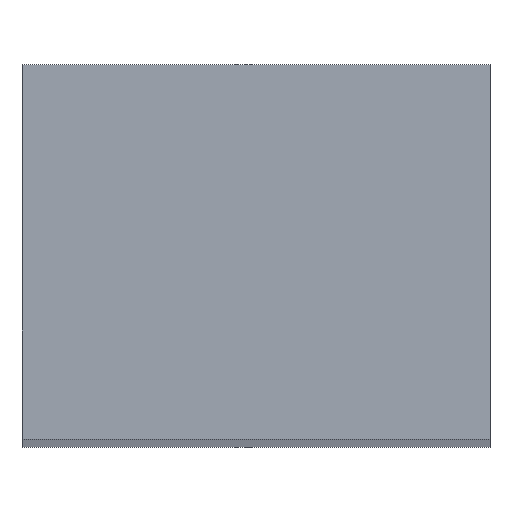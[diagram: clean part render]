
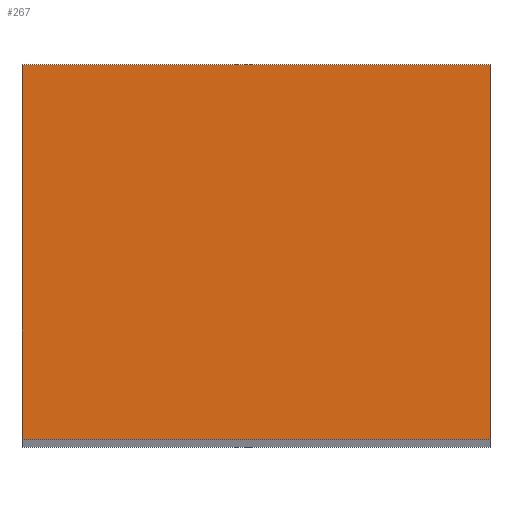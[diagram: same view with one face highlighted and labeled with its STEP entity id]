
A CAD part, top view. The second image highlights one B-rep face of the part: STEP entity #267.
In plain terms, the highlighted planar face has unit normal (0, 0, 1).
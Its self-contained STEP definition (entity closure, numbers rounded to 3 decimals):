
#2 = VECTOR ( 'NONE', #49, 1000. ) ;
#7 = LINE ( 'NONE', #93, #26 ) ;
#15 = EDGE_CURVE ( 'NONE', #284, #259, #392, .T. ) ;
#26 = VECTOR ( 'NONE', #333, 1000. ) ;
#35 = CARTESIAN_POINT ( 'NONE',  ( -7.5, 6., 150. ) ) ;
#44 = VERTEX_POINT ( 'NONE', #438 ) ;
#47 = ORIENTED_EDGE ( 'NONE', *, *, #277, .T. ) ;
#49 = DIRECTION ( 'NONE',  ( 0., -1., 0. ) ) ;
#53 = DIRECTION ( 'NONE',  ( 0., 1., 0. ) ) ;
#71 = DIRECTION ( 'NONE',  ( 1., 0., 0. ) ) ;
#74 = CARTESIAN_POINT ( 'NONE',  ( 7.5, -6., 150. ) ) ;
#86 = CARTESIAN_POINT ( 'NONE',  ( 7.5, 6., 150. ) ) ;
#93 = CARTESIAN_POINT ( 'NONE',  ( -7.5, -6., 150. ) ) ;
#100 = FACE_OUTER_BOUND ( 'NONE', #210, .T. ) ;
#102 = DIRECTION ( 'NONE',  ( 0., 0., 1. ) ) ;
#133 = VECTOR ( 'NONE', #143, 1000. ) ;
#138 = CARTESIAN_POINT ( 'NONE',  ( 7.5, 6., 150. ) ) ;
#141 = CARTESIAN_POINT ( 'NONE',  ( -7.5, 6., 150. ) ) ;
#143 = DIRECTION ( 'NONE',  ( -1., 0., 0. ) ) ;
#203 = LINE ( 'NONE', #35, #2 ) ;
#205 = PLANE ( 'NONE',  #352 ) ;
#208 = ORIENTED_EDGE ( 'NONE', *, *, #15, .T. ) ;
#210 = EDGE_LOOP ( 'NONE', ( #208, #47, #216, #317 ) ) ;
#216 = ORIENTED_EDGE ( 'NONE', *, *, #398, .T. ) ;
#226 = VECTOR ( 'NONE', #53, 1000. ) ;
#259 = VERTEX_POINT ( 'NONE', #138 ) ;
#267 = ADVANCED_FACE ( 'NONE', ( #100 ), #205, .T. ) ;
#275 = CARTESIAN_POINT ( 'NONE',  ( 0., 0., 150. ) ) ;
#277 = EDGE_CURVE ( 'NONE', #259, #349, #411, .T. ) ;
#284 = VERTEX_POINT ( 'NONE', #74 ) ;
#309 = EDGE_CURVE ( 'NONE', #44, #284, #7, .T. ) ;
#317 = ORIENTED_EDGE ( 'NONE', *, *, #309, .T. ) ;
#327 = CARTESIAN_POINT ( 'NONE',  ( -7.5, 6., 150. ) ) ;
#333 = DIRECTION ( 'NONE',  ( 1., 0., 0. ) ) ;
#349 = VERTEX_POINT ( 'NONE', #327 ) ;
#352 = AXIS2_PLACEMENT_3D ( 'NONE', #275, #102, #71 ) ;
#392 = LINE ( 'NONE', #86, #226 ) ;
#398 = EDGE_CURVE ( 'NONE', #349, #44, #203, .T. ) ;
#411 = LINE ( 'NONE', #141, #133 ) ;
#438 = CARTESIAN_POINT ( 'NONE',  ( -7.5, -6., 150. ) ) ;
